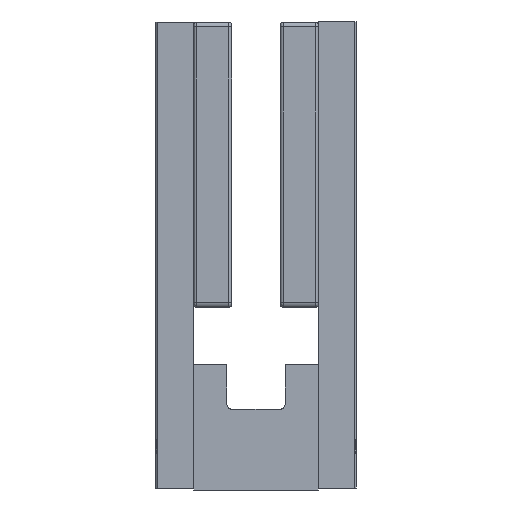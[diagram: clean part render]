
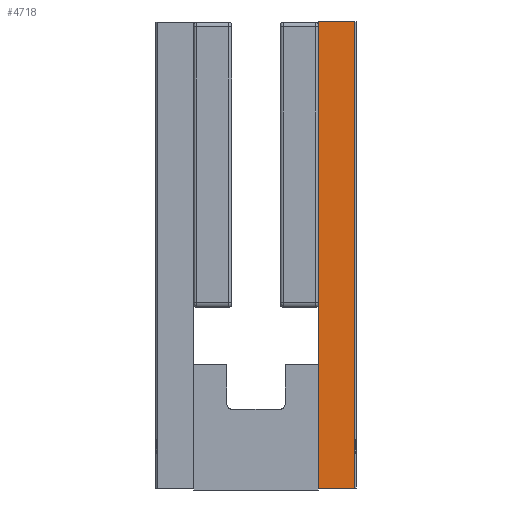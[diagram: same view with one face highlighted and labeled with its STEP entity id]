
A CAD part, left-side view. The second image highlights one B-rep face of the part: STEP entity #4718.
In plain terms, the highlighted planar face has unit normal (-1, 0, 0).
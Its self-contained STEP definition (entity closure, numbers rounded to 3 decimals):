
#417 = DIRECTION ( 'NONE',  ( 0., -1., 0. ) ) ;
#1700 = CARTESIAN_POINT ( 'NONE',  ( -74.95, -15.1, 24.51 ) ) ;
#2795 = CARTESIAN_POINT ( 'NONE',  ( -74.95, -15.1, 24.51 ) ) ;
#3377 = PLANE ( 'NONE',  #13959 ) ;
#3546 = DIRECTION ( 'NONE',  ( 0., 0., 1. ) ) ;
#4718 = ADVANCED_FACE ( 'NONE', ( #29355 ), #3377, .F. ) ;
#5405 = ORIENTED_EDGE ( 'NONE', *, *, #29551, .F. ) ;
#5586 = CARTESIAN_POINT ( 'NONE',  ( -74.95, -18.9, -24.49 ) ) ;
#5684 = EDGE_CURVE ( 'NONE', #15226, #31237, #16026, .T. ) ;
#6614 = LINE ( 'NONE', #6782, #24175 ) ;
#6782 = CARTESIAN_POINT ( 'NONE',  ( -74.95, -15.1, -24.49 ) ) ;
#8278 = DIRECTION ( 'NONE',  ( 1., 0., 0. ) ) ;
#9457 = CARTESIAN_POINT ( 'NONE',  ( -74.95, -18.9, 24.51 ) ) ;
#9535 = CARTESIAN_POINT ( 'NONE',  ( -74.95, -18.9, -24.49 ) ) ;
#9832 = EDGE_CURVE ( 'NONE', #15226, #22603, #6614, .T. ) ;
#10690 = VECTOR ( 'NONE', #417, 1000. ) ;
#11649 = ORIENTED_EDGE ( 'NONE', *, *, #9832, .F. ) ;
#11717 = DIRECTION ( 'NONE',  ( 0., 0., 1. ) ) ;
#12665 = DIRECTION ( 'NONE',  ( 0., -1., 0. ) ) ;
#13959 = AXIS2_PLACEMENT_3D ( 'NONE', #16120, #8278, #3546 ) ;
#14935 = CARTESIAN_POINT ( 'NONE',  ( -74.95, -15.1, -24.49 ) ) ;
#15226 = VERTEX_POINT ( 'NONE', #14935 ) ;
#16026 = LINE ( 'NONE', #23840, #10690 ) ;
#16120 = CARTESIAN_POINT ( 'NONE',  ( -74.95, -15.1, -24.49 ) ) ;
#18566 = ORIENTED_EDGE ( 'NONE', *, *, #20034, .T. ) ;
#19827 = EDGE_LOOP ( 'NONE', ( #31775, #18566, #5405, #11649 ) ) ;
#20034 = EDGE_CURVE ( 'NONE', #31237, #26663, #22293, .T. ) ;
#22293 = LINE ( 'NONE', #9535, #23108 ) ;
#22603 = VERTEX_POINT ( 'NONE', #2795 ) ;
#23108 = VECTOR ( 'NONE', #30100, 1000. ) ;
#23840 = CARTESIAN_POINT ( 'NONE',  ( -74.95, -15.1, -24.49 ) ) ;
#24175 = VECTOR ( 'NONE', #11717, 1000. ) ;
#26663 = VERTEX_POINT ( 'NONE', #9457 ) ;
#29355 = FACE_OUTER_BOUND ( 'NONE', #19827, .T. ) ;
#29551 = EDGE_CURVE ( 'NONE', #22603, #26663, #32764, .T. ) ;
#30100 = DIRECTION ( 'NONE',  ( 0., 0., 1. ) ) ;
#31237 = VERTEX_POINT ( 'NONE', #5586 ) ;
#31775 = ORIENTED_EDGE ( 'NONE', *, *, #5684, .T. ) ;
#32443 = VECTOR ( 'NONE', #12665, 1000. ) ;
#32764 = LINE ( 'NONE', #1700, #32443 ) ;
